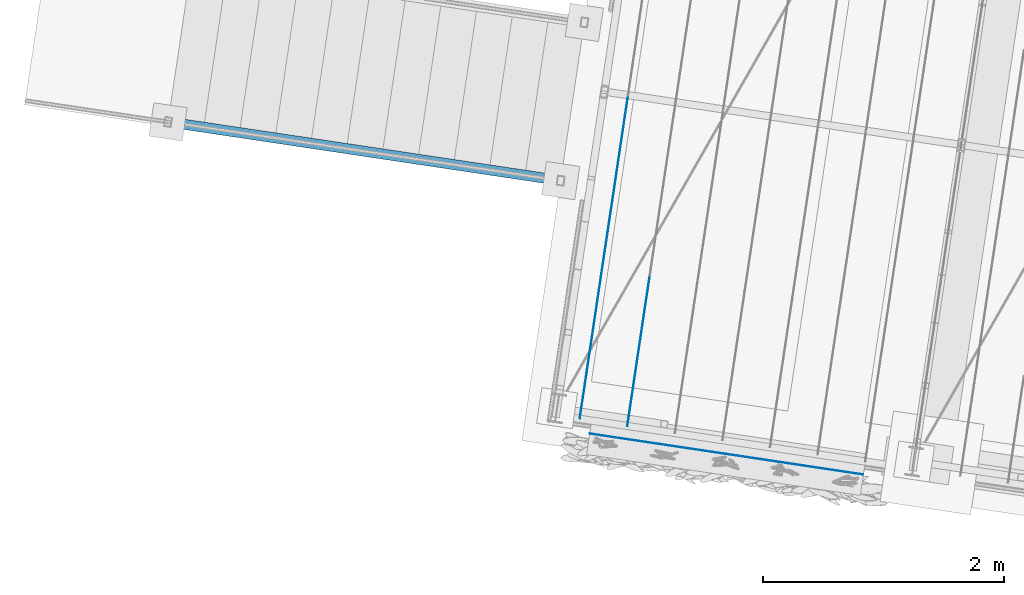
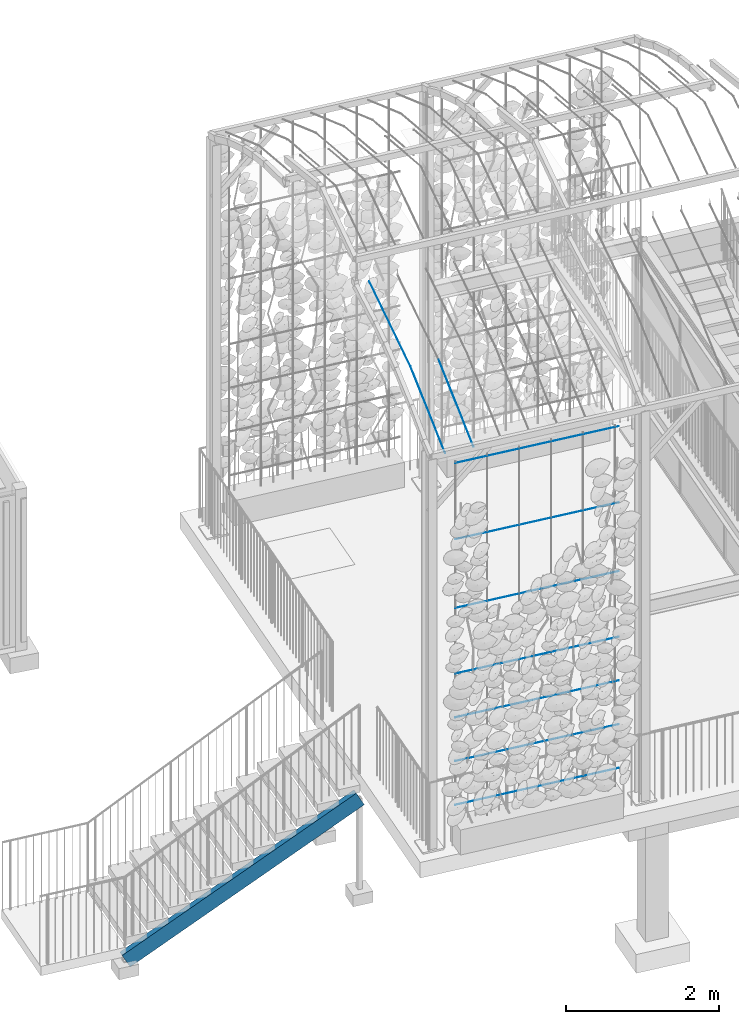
# One storey, part 10 of 142: 11 members, 3 elements without a shape of their own.
"""IFC4 building model written with IfcOpenShell, lengths in metres."""

from ifc_helpers import new_model, si_unit, direction, frame, origin_with_axes, place, context, subcontext, project, spatial, polyline, circle, outline, extrude, material, material_profile, profile_set, profile_usage, type_object, element, aggregate, save


model = new_model("IFC4")

# Units and contexts
model_context = context("Model", 3, precision=1e-05, world=origin_with_axes(), true_north=direction((0.0, 1.0)))
body_context = subcontext(model_context, "Body", "Model", "MODEL_VIEW")
ifc_project = project(units=[si_unit("AREAUNIT", "SQUARE_METRE"), si_unit("VOLUMEUNIT", "CUBIC_METRE"), si_unit("LENGTHUNIT", "METRE")], contexts=[model_context])

# Site, building, storey
site_placement = place(None, origin_with_axes())
site = spatial("IfcSite", under=ifc_project, at=site_placement, Name="Lares · Rua das Mercês · artigo 4771")
building_placement = place(site_placement, frame((15.0, 9.7, 14.65), z_axis=(0.0, 0.0, 1.0), x_axis=(0.989015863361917, -0.147809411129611, 0.0)))
building = spatial("IfcBuilding", under=site, at=building_placement, Name="Casa Sobreposta")
storey_placement = place(building_placement, origin_with_axes())
storey = spatial("IfcBuildingStorey", under=building, at=storey_placement, Name="00 · Habitação e estacionamento", Elevation=14.65)

# Stair, member
stair_placement = place(storey_placement, origin_with_axes())
stair = element("IfcStair", 1, at=stair_placement, inside=storey, Name="Jardim · escada pela fachada poente", PredefinedType="STRAIGHT_RUN_STAIR")
ifc_material_1 = material(Name="Aço pintado / Stahl lackiert", Category="steel")
ifc_material_profile_1 = material_profile(ifc_material_1, outline(polyline([(-0.0425, -0.12), (0.0425, -0.12), (0.0425, -0.1102), (-0.0325, -0.1102), (-0.0325, 0.1102), (0.0425, 0.1102), (0.0425, 0.12), (-0.0425, 0.12), (-0.0425, -0.12)])))
ifc_profile_set_1 = profile_set([ifc_material_profile_1], Name="C240")
ifc_profile_usage_1 = profile_usage(ifc_profile_set_1)
member_type_1 = type_object("IfcMemberType", Name="C240 / steel", PredefinedType="NOTDEFINED", material=ifc_profile_set_1)
member_1_placement = place(stair_placement, frame((-6.25, 0.435, -0.419166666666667), z_axis=(-0.883369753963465, 0.0, -0.468676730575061), x_axis=(0.0, 1.0, 0.0)))
member_1 = element("IfcMember", 2, at=member_1_placement, type_object=member_type_1, material=ifc_profile_usage_1, Name="Jardim · longarina poente", context=body_context, shape_type="SweptSolid", body=[
    extrude(outline(polyline([(-0.0425, -0.12), (0.0425, -0.12), (0.0425, -0.1102), (-0.0325, -0.1102), (-0.0325, 0.1102), (0.0425, 0.1102), (0.0425, 0.12), (-0.0425, 0.12), (-0.0425, -0.12)])), origin_with_axes(), (0.0, 0.0, 1.0), 3.73569503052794),
])
aggregate(stair, [member_1])

# Assembly, members
assembly_1_placement = place(storey_placement, origin_with_axes())
assembly_1 = element("IfcElementAssembly", 3, at=assembly_1_placement, inside=storey, Name="Pérgola · prolongamento da estufa 6 m", ObjectType="PERGOLA_GREENHOUSE_EXTENSION", PredefinedType="USERDEFINED")
ifc_material_2 = material(Name="Aço galvanizado / Stahl verzinkt", Category="steel")
ifc_material_profile_2 = material_profile(ifc_material_2, circle(Radius=0.002))
ifc_profile_set_2 = profile_set([ifc_material_profile_2], Name="D0.004")
ifc_profile_usage_2 = profile_usage(ifc_profile_set_2)
member_type_2 = type_object("IfcMemberType", Name="D0.004 / galvanized", PredefinedType="NOTDEFINED", material=ifc_profile_set_2)
member_2_placement = place(assembly_1_placement, frame((-5.8, -1.5, 6.23430000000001), z_axis=(0.0, 0.905876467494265, 0.423541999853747), x_axis=(1.0, 0.0, 0.0)))
member_2 = element("IfcMember", 4, at=member_2_placement, type_object=member_type_2, material=ifc_profile_usage_2, Name="Pérgola · fio para trepadeiras", context=body_context, shape_type="SweptSolid", body=[
    extrude(circle(Radius=0.002), origin_with_axes(), (0.0, 0.0, 1.0), 1.37271642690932),
])
ifc_profile_usage_3 = profile_usage(ifc_profile_set_2)
member_3_placement = place(assembly_1_placement, frame((-5.8, -0.256488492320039, 6.81570306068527), z_axis=(0.0, 0.96535496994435, 0.260940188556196), x_axis=(1.0, 0.0, 0.0)))
member_3 = element("IfcMember", 5, at=member_3_placement, type_object=member_type_2, material=ifc_profile_usage_3, Name="Pérgola · fio para trepadeiras", context=body_context, shape_type="SweptSolid", body=[
    extrude(circle(Radius=0.002), origin_with_axes(), (0.0, 0.0, 1.0), 1.52368621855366),
])
ifc_profile_usage_4 = profile_usage(ifc_profile_set_2)
member_4_placement = place(assembly_1_placement, frame((-5.4, -1.5, 6.23430000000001), z_axis=(0.0, 0.905876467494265, 0.423541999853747), x_axis=(1.0, 0.0, 0.0)))
member_4 = element("IfcMember", 6, at=member_4_placement, type_object=member_type_2, material=ifc_profile_usage_4, Name="Pérgola · fio para trepadeiras", context=body_context, shape_type="SweptSolid", body=[
    extrude(circle(Radius=0.002), origin_with_axes(), (0.0, 0.0, 1.0), 1.37271642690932),
])
aggregate(assembly_1, [member_2, member_3, member_4])

assembly_2_placement = place(storey_placement, origin_with_axes())
assembly_2 = element("IfcElementAssembly", 7, at=assembly_2_placement, inside=storey, Name="Fachada sul e pátio · estrutura e trepadeiras", ObjectType="LIVING_SHADE_TRELLIS", PredefinedType="USERDEFINED")
ifc_profile_usage_5 = profile_usage(ifc_profile_set_2)
member_5_placement = place(assembly_2_placement, frame((-5.7, -1.61, 0.65), z_axis=(1.0, 0.0, 0.0), x_axis=(0.0, -1.0, 0.0)))
member_5 = element("IfcMember", 8, at=member_5_placement, type_object=member_type_2, material=ifc_profile_usage_5, Name="Trepadeiras · fio horizontal", context=body_context, shape_type="SweptSolid", body=[
    extrude(circle(Radius=0.002), origin_with_axes(), (0.0, 0.0, 1.0), 2.3),
])
ifc_profile_usage_6 = profile_usage(ifc_profile_set_2)
member_6_placement = place(assembly_2_placement, frame((-5.7, -1.61, 1.35), z_axis=(1.0, 0.0, 0.0), x_axis=(0.0, -1.0, 0.0)))
member_6 = element("IfcMember", 9, at=member_6_placement, type_object=member_type_2, material=ifc_profile_usage_6, Name="Trepadeiras · fio horizontal", context=body_context, shape_type="SweptSolid", body=[
    extrude(circle(Radius=0.002), origin_with_axes(), (0.0, 0.0, 1.0), 2.3),
])
ifc_profile_usage_7 = profile_usage(ifc_profile_set_2)
member_7_placement = place(assembly_2_placement, frame((-5.7, -1.61, 2.05), z_axis=(1.0, 0.0, 0.0), x_axis=(0.0, -1.0, 0.0)))
member_7 = element("IfcMember", 10, at=member_7_placement, type_object=member_type_2, material=ifc_profile_usage_7, Name="Trepadeiras · fio horizontal", context=body_context, shape_type="SweptSolid", body=[
    extrude(circle(Radius=0.002), origin_with_axes(), (0.0, 0.0, 1.0), 2.3),
])
ifc_profile_usage_8 = profile_usage(ifc_profile_set_2)
member_8_placement = place(assembly_2_placement, frame((-5.7, -1.61, 2.75), z_axis=(1.0, 0.0, 0.0), x_axis=(0.0, -1.0, 0.0)))
member_8 = element("IfcMember", 11, at=member_8_placement, type_object=member_type_2, material=ifc_profile_usage_8, Name="Trepadeiras · fio horizontal", context=body_context, shape_type="SweptSolid", body=[
    extrude(circle(Radius=0.002), origin_with_axes(), (0.0, 0.0, 1.0), 2.3),
])
ifc_profile_usage_9 = profile_usage(ifc_profile_set_2)
member_9_placement = place(assembly_2_placement, frame((-5.7, -1.61, 3.8), z_axis=(1.0, 0.0, 0.0), x_axis=(0.0, -1.0, 0.0)))
member_9 = element("IfcMember", 12, at=member_9_placement, type_object=member_type_2, material=ifc_profile_usage_9, Name="Trepadeiras · fio horizontal", context=body_context, shape_type="SweptSolid", body=[
    extrude(circle(Radius=0.002), origin_with_axes(), (0.0, 0.0, 1.0), 2.3),
])
ifc_profile_usage_10 = profile_usage(ifc_profile_set_2)
member_10_placement = place(assembly_2_placement, frame((-5.7, -1.61, 4.9), z_axis=(1.0, 0.0, 0.0), x_axis=(0.0, -1.0, 0.0)))
member_10 = element("IfcMember", 13, at=member_10_placement, type_object=member_type_2, material=ifc_profile_usage_10, Name="Trepadeiras · fio horizontal", context=body_context, shape_type="SweptSolid", body=[
    extrude(circle(Radius=0.002), origin_with_axes(), (0.0, 0.0, 1.0), 2.3),
])
ifc_profile_usage_11 = profile_usage(ifc_profile_set_2)
member_11_placement = place(assembly_2_placement, frame((-5.7, -1.61, 6.12), z_axis=(1.0, 0.0, 0.0), x_axis=(0.0, -1.0, 0.0)))
member_11 = element("IfcMember", 14, at=member_11_placement, type_object=member_type_2, material=ifc_profile_usage_11, Name="Trepadeiras · fio horizontal", context=body_context, shape_type="SweptSolid", body=[
    extrude(circle(Radius=0.002), origin_with_axes(), (0.0, 0.0, 1.0), 2.3),
])
aggregate(assembly_2, [member_5, member_6, member_7, member_8, member_9, member_10, member_11])

save(model, "model.ifc")
